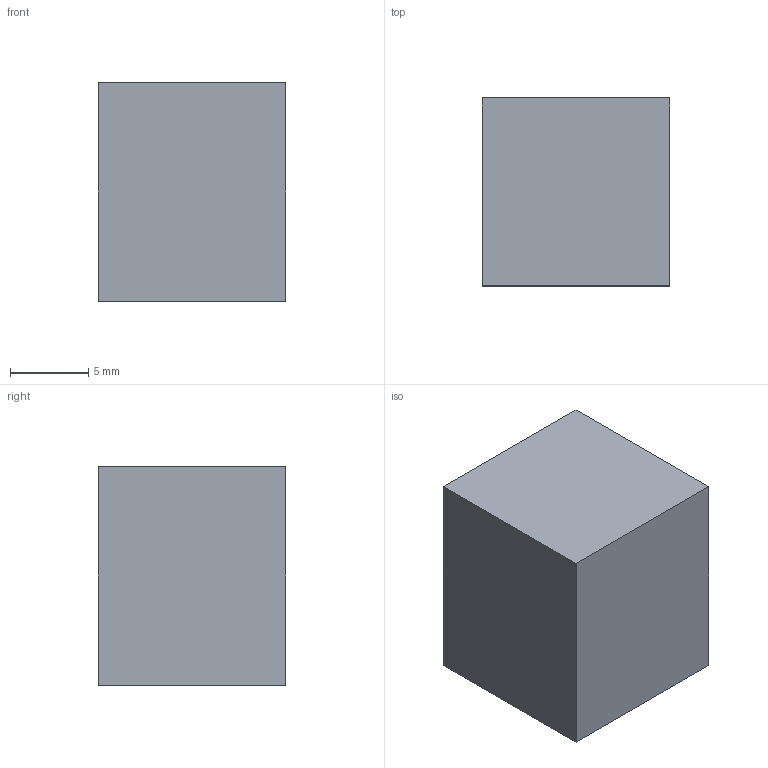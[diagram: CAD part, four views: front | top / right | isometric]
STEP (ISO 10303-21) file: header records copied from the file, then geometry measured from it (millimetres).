
FILE_DESCRIPTION(('Open CASCADE Model'),'2;1');
FILE_NAME('Open CASCADE Shape Model','2026-10-04T02:31:35',('Author'),( 'Open CASCADE'),'Open CASCADE STEP processor 8.0','Open CASCADE 8.0' ,'Unknown');
FILE_SCHEMA(('AUTOMOTIVE_DESIGN { 1 0 10303 214 1 1 1 1 }'));
Length unit declared in the file: millimetre
Products named in the file (1): Open CASCADE STEP translator 8.0 38
Bounding box: 12 x 12 x 14 mm (x, y, z)
Volume: 2016 mm3; surface area: 960 mm2
Topology: 1 solids, 1 shells, 6 faces, 12 edges, 8 vertices
Faces by surface type: plane 6
Entity records: 322 total; most frequent: CARTESIAN_POINT 51, DIRECTION 50, LINE 36, VECTOR 36, ORIENTED_EDGE 24, PCURVE 24, DEFINITIONAL_REPRESENTATION 24, EDGE_CURVE 12
